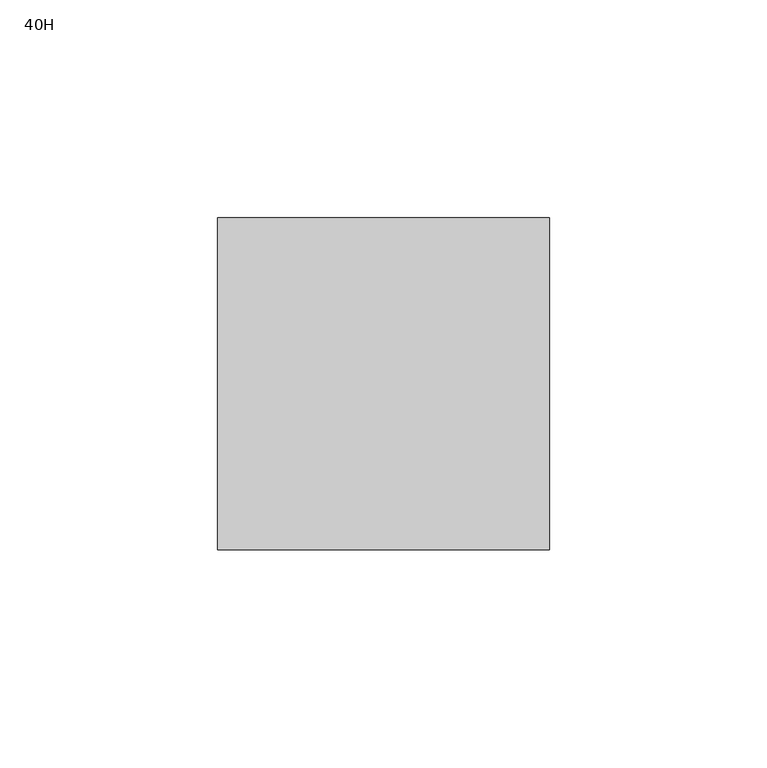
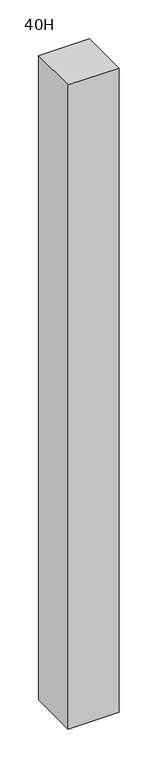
"""IFC4 building model written with IfcOpenShell, lengths in millimetres: furniture geometry, Steelcase - Montage - Power and Cable Pole : 40H."""

from ifc_helpers import new_model, si_unit, frame, origin, place, context, project, spatial, polyline, outline, extrude, source, transform, mapped, element, save


def furniture_40h_20d503b1(model_context):
    return source(origin(), model_context, "Body", "SweptSolid", [
        extrude(outline(polyline([(0.0, -76.2), (0.0, 0.0), (76.2, 0.0), (76.2, -76.2), (0.0, -76.2)])), frame((0.0, 0.0, 1654.1750969), z_axis=(0.0, 0.0, 1.0), x_axis=(1.0, 0.0, 0.0)), (0.0, 0.0, 1.0), 1016.0),
    ])


if __name__ == "__main__":
    model = new_model("IFC4")
    model_context = context("Model", 3, world=origin())
    ifc_project = project(units=[si_unit("LENGTHUNIT", "METRE", prefix="MILLI")], contexts=[model_context])
    site = spatial("IfcSite", under=ifc_project)
    building = spatial("IfcBuilding", under=site)
    placement = place(None, origin())
    furniture_40h_shape = furniture_40h_20d503b1(model_context)
    element("IfcFurniture", 1, ObjectType="Steelcase - Montage - Power and Cable Pole : 40H", at=placement, inside=building, context=model_context, shape_type="MappedRepresentation", body=[
        mapped(furniture_40h_shape, transform((0.0, 0.0, 0.0), x_axis=(1.0, 0.0, 0.0), y_axis=(0.0, 1.0, 0.0), z_axis=(0.0, 0.0, 1.0))),
    ])
    save(model, "model.ifc")
